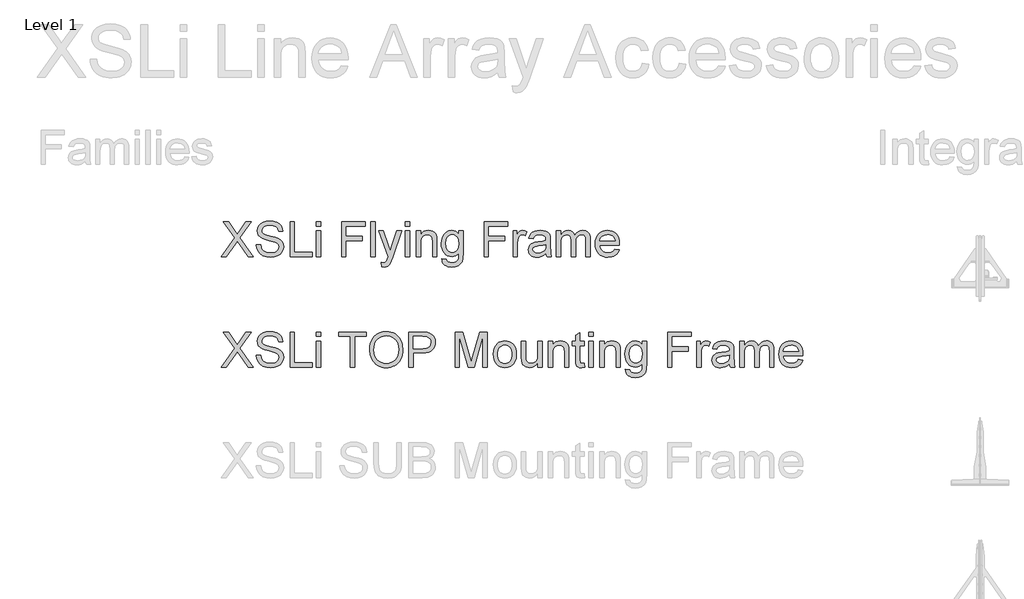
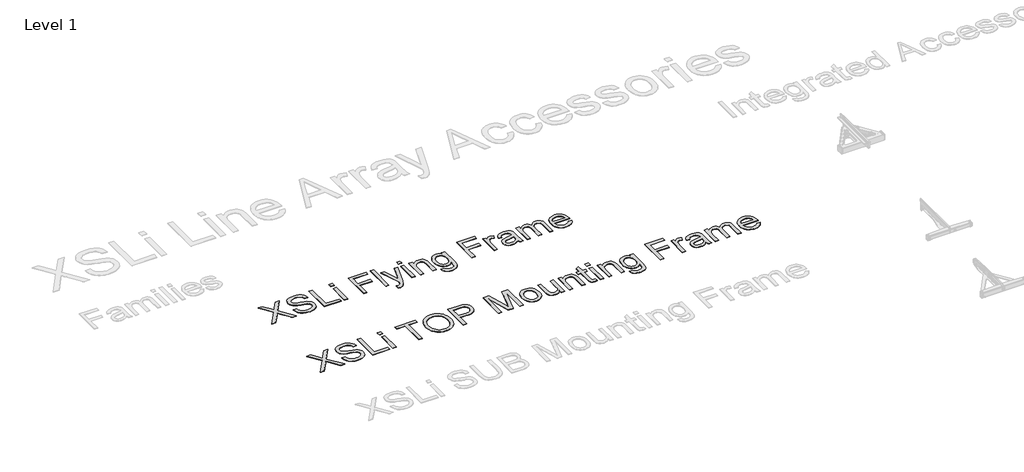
# One storey, part 30 of 52: 2 proxies.
"""IFC4 building model written with IfcOpenShell, lengths in millimetres."""

from ifc_helpers import new_model, si_unit, origin, origin_with_axes, place, context, project, spatial, polyline, outline, extrude, element, save

model = new_model("IFC4")

# Units and contexts
model_context = context("Model", 3, world=origin())
ifc_project = project(units=[si_unit("LENGTHUNIT", "METRE", prefix="MILLI")], contexts=[model_context])

# Site, building, storey
site = spatial("IfcSite", under=ifc_project)
building = spatial("IfcBuilding", under=site)
storey = spatial("IfcBuildingStorey", under=building, Name="Level 1", Elevation=0.0)

# Proxies
placement = place(None, origin())
element("IfcBuildingElementProxy", 1, Name="400mm Arial", ObjectType="400mm Arial", at=placement, inside=storey, context=model_context, shape_type="SweptSolid", body=[
    extrude(outline(polyline([(8004.9788586, -63590.7600783), (8159.7836021, -63371.7967147), (8030.0929361, -63188.9348377), (8090.2293796, -63188.9348377), (8163.3152693, -63291.9417963), (8187.9388375, -63332.0654593), (8216.7807859, -63291.0588795), (8289.0818607, -63188.9348377), (8350.2974247, -63188.9348377), (8220.5086568, -63372.4834278), (8375.4115022, -63590.7600783), (8315.1769569, -63590.7600783), (8211.8756926, -63445.2750119), (8190.3913841, -63415.1577392), (8166.9450383, -63448.2180679), (8066.1944226, -63590.7600783), (8004.9788586, -63590.7600783)])), origin_with_axes(), (0.0, 0.0, 1.0), 5.0),
    extrude(outline(polyline([(8406.8040992, -63452.6326518), (8457.0322542, -63452.6326518), (8462.7957388, -63480.5058443), (8473.219062, -63502.9098578), (8489.4794462, -63520.6908209), (8512.7541138, -63534.6948622), (8541.2036547, -63543.7815475), (8572.9886591, -63546.8104426), (8600.9722162, -63544.5173115), (8625.4731571, -63537.6379182), (8645.3265221, -63526.7486111), (8659.3673516, -63512.4257388), (8667.7182729, -63495.9814136), (8670.5019133, -63478.727748), (8668.4172487, -63461.9155408), (8662.1632547, -63447.384202), (8649.4590632, -63434.9865788), (8628.0238056, -63424.5755183), (8554.8888649, -63405.3966036), (8506.8802646, -63392.7046748), (8476.162118, -63380.6258826), (8451.158405, -63363.7278363), (8433.4387556, -63343.2490719), (8422.8805423, -63319.6310478), (8419.3611379, -63293.3152224), (8423.7144082, -63263.8969256), (8436.774219, -63236.4651914), (8458.1972139, -63213.2150494), (8487.6400362, -63196.3415285), (8522.9812332, -63186.0776208), (8562.0993521, -63182.6563183), (8604.4793579, -63186.2370364), (8641.561863, -63196.9791906), (8672.0224922, -63214.6620519), (8694.5368703, -63239.0648909), (8708.7861663, -63268.6671288), (8714.451549, -63301.9481866), (8664.2233939, -63301.9481866), (8655.0018186, -63271.9780667), (8646.6386345, -63260.1200037), (8635.773853, -63250.3466054), (8605.7301567, -63237.2500064), (8564.0613894, -63232.8844734), (8521.4116034, -63237.2009554), (8505.1082996, -63242.596558), (8492.152722, -63250.1504017), (8475.2301503, -63269.206689), (8469.589293, -63291.8436945), (8473.586944, -63311.1452365), (8485.5798971, -63326.6698567), (8513.9313362, -63340.5512706), (8567.5930565, -63354.7269902), (8622.9715595, -63368.1914712), (8656.4733465, -63379.9391696), (8685.1068285, -63398.1615911), (8705.0828208, -63420.6514437), (8716.8182565, -63447.1634728), (8720.7300684, -63477.4524238), (8716.2296453, -63508.415825), (8702.7283761, -63537.5398163), (8680.7780837, -63562.6048429), (8650.9305912, -63581.3913501), (8615.0375712, -63593.1267858), (8574.9506964, -63597.0385977), (8525.7403482, -63592.8202174), (8485.2365405, -63580.1650768), (8452.9732895, -63559.0241248), (8428.4846114, -63529.3483105), (8412.7637875, -63493.1977731), (8406.8040992, -63452.6326518)])), origin_with_axes(), (0.0, 0.0, 1.0), 5.0),
    extrude(outline(polyline([(8796.072301, -63590.7600783), (8796.072301, -63188.9348377), (8846.3004561, -63188.9348377), (8846.3004561, -63540.5319232), (9047.2130764, -63540.5319232), (9047.2130764, -63590.7600783), (8796.072301, -63590.7600783)])), origin_with_axes(), (0.0, 0.0, 1.0), 5.0),
    extrude(outline(polyline([(9097.4412314, -63590.7600783), (9097.4412314, -63295.6696672), (9147.6693865, -63295.6696672), (9147.6693865, -63590.7600783), (9097.4412314, -63590.7600783)])), origin_with_axes(), (0.0, 0.0, 1.0), 5.0),
    extrude(outline(polyline([(9097.4412314, -63239.1629927), (9097.4412314, -63188.9348377), (9147.6693865, -63188.9348377), (9147.6693865, -63239.1629927), (9097.4412314, -63239.1629927)])), origin_with_axes(), (0.0, 0.0, 1.0), 5.0),
    extrude(outline(polyline([(9486.7094333, -63590.7600783), (9486.7094333, -63239.1629927), (9354.8605262, -63239.1629927), (9354.8605262, -63188.9348377), (9668.7864954, -63188.9348377), (9668.7864954, -63239.1629927), (9536.9375883, -63239.1629927), (9536.9375883, -63590.7600783), (9486.7094333, -63590.7600783)])), origin_with_axes(), (0.0, 0.0, 1.0), 5.0),
    extrude(outline(polyline([(9706.4576117, -63395.1449587), (9709.8053379, -63348.0131438), (9719.8485163, -63306.2891941), (9736.5871471, -63269.9731098), (9760.0212302, -63239.0648909), (9788.7466827, -63214.3861404), (9821.3594215, -63196.7584614), (9857.8594468, -63186.1818541), (9898.2467585, -63182.6563183), (9925.2799538, -63184.3117873), (9950.9519857, -63189.2781942), (9975.2628542, -63197.5555391), (9998.2125594, -63209.1438219), (10019.1573076, -63223.6935548), (10037.4533055, -63240.8552499), (10053.100553, -63260.6289072), (10066.0990502, -63283.0145266), (10076.3139069, -63307.5032047), (10083.6102332, -63333.5860382), (10089.4472942, -63390.534171), (10087.9113868, -63420.1915912), (10083.3036648, -63448.2425933), (10075.6241282, -63474.6871774), (10064.8727769, -63499.5253435), (10051.3040626, -63522.1010352), (10035.1724371, -63541.7581965), (10016.4779004, -63558.4968273), (9995.2204525, -63572.3169276), (9972.2370248, -63583.1326582), (9948.364549, -63590.8581801), (9923.6030251, -63595.4934933), (9897.9524529, -63597.0385977), (9870.4471424, -63595.3310121), (9844.4378854, -63590.2082553), (9819.9246818, -63581.6703273), (9796.9075316, -63569.7172281), (9775.9873088, -63554.811876), (9757.7648873, -63537.417189), (9742.2402671, -63517.5331671), (9729.4134482, -63495.1598105), (9712.1965708, -63446.5380734), (9706.4576117, -63395.1449587)]), holes=[polyline([(9756.6857668, -63395.635468), (9759.1965614, -63428.93492), (9766.7289453, -63458.4942383), (9779.2829183, -63484.313423), (9796.8584807, -63506.392474), (9818.2232275, -63524.0753353), (9842.1447543, -63536.7059504), (9868.6230609, -63544.2843195), (9897.6581473, -63546.8104426), (9927.1898745, -63544.2597941), (9953.9808808, -63536.6078486), (9978.0311662, -63523.8546061), (9999.3407308, -63506.0000666), (10016.7875344, -63483.4550316), (10029.249537, -63456.6303028), (10036.7267386, -63425.5258801), (10039.2191391, -63390.1417636), (10034.9517079, -63345.6770931), (10022.1494145, -63307.2456873), (10001.1433526, -63275.8163022), (9972.264616, -63252.3576936), (9937.426191, -63237.7527784), (9898.5410641, -63232.8844734), (9870.5145875, -63235.2297211), (9844.5114618, -63242.2654642), (9820.5316871, -63253.9917028), (9798.5752633, -63270.4084369), (9780.2486086, -63292.3066126), (9767.1581409, -63320.4771764), (9759.3038603, -63354.9201282), (9756.6857668, -63395.635468)])]), origin_with_axes(), (0.0, 0.0, 1.0), 5.0),
    extrude(outline(polyline([(10158.5110074, -63590.7600783), (10158.5110074, -63188.9348377), (10307.429639, -63188.9348377), (10367.4679806, -63192.7608104), (10394.2375272, -63199.9099839), (10416.2736587, -63211.5473176), (10434.0178336, -63228.2001093), (10447.9115103, -63250.3956563), (10456.8878309, -63276.5765917), (10459.8799378, -63305.1855481), (10457.8596525, -63329.8520359), (10451.7987967, -63352.5442237), (10441.6973702, -63373.2621114), (10427.5553732, -63392.005699), (10408.1404009, -63407.5425819), (10382.2200487, -63418.6403555), (10349.7943165, -63425.2990196), (10310.8632043, -63427.5185743), (10208.7391625, -63427.5185743), (10208.7391625, -63590.7600783), (10158.5110074, -63590.7600783)]), holes=[polyline([(10208.7391625, -63377.2904192), (10313.8062603, -63377.2904192), (10358.3445072, -63372.6796315), (10374.9482479, -63366.9161469), (10387.7750668, -63358.8472685), (10397.34613, -63348.6875941), (10404.1826038, -63336.6517215), (10409.6517828, -63306.9513817), (10406.4266839, -63284.3879527), (10396.7513875, -63265.3561908), (10381.8276412, -63251.0333185), (10362.857193, -63242.596558), (10312.6290379, -63239.1629927), (10208.7391625, -63239.1629927), (10208.7391625, -63377.2904192)])]), origin_with_axes(), (0.0, 0.0, 1.0), 5.0),
    extrude(outline(polyline([(10685.9066357, -63590.7600783), (10685.9066357, -63188.9348377), (10772.0400735, -63188.9348377), (10854.4456404, -63472.154923), (10871.1229575, -63531.3103478), (10889.0755989, -63467.2498298), (10969.911536, -63188.9348377), (11056.3392794, -63188.9348377), (11056.3392794, -63590.7600783), (11006.1111243, -63590.7600783), (11006.1111243, -63239.1629927), (10905.1643048, -63590.7600783), (10837.1797121, -63590.7600783), (10736.1347907, -63239.1629927), (10736.1347907, -63590.7600783), (10685.9066357, -63590.7600783)])), origin_with_axes(), (0.0, 0.0, 1.0), 5.0),
    extrude(outline(polyline([(11125.4029926, -63443.2148727), (11128.119188, -63404.9980648), (11136.2677742, -63372.0664949), (11149.8487512, -63344.4201629), (11168.8621189, -63322.059069), (11188.0042454, -63307.7668535), (11209.1329347, -63297.5581281), (11232.2481867, -63291.4328929), (11257.3500015, -63289.3911478), (11285.0607128, -63291.877417), (11310.1165424, -63299.3362244), (11332.5174902, -63311.7675702), (11352.2635563, -63329.1714542), (11368.3798533, -63350.9592654), (11379.8914941, -63376.5423925), (11386.7984786, -63405.9208355), (11389.1008067, -63439.0945944), (11385.0295793, -63489.8377843), (11372.8158971, -63528.4653938), (11352.8153793, -63557.3931813), (11325.3836452, -63579.0369054), (11292.8015631, -63592.5381746), (11257.3500015, -63597.0385977), (11229.23462, -63594.5615256), (11203.9457985, -63587.1303092), (11181.4835371, -63574.7449487), (11161.8478356, -63557.405444), (11145.9032168, -63535.4061007), (11134.5142033, -63509.0412244), (11127.6807953, -63478.3108151), (11125.4029926, -63443.2148727)]), holes=[polyline([(11175.6311477, -63443.1167709), (11177.0842815, -63467.479756), (11181.4436832, -63488.5747227), (11188.7093526, -63506.4016711), (11198.8812897, -63520.960601), (11211.2543875, -63532.2699067), (11225.1235387, -63540.3479822), (11240.4887434, -63545.1948275), (11257.3500015, -63546.8104426), (11274.1254205, -63545.1856304), (11289.4293115, -63540.311194), (11303.2616745, -63532.1871333), (11315.6225096, -63520.8134483), (11325.7944467, -63506.1104312), (11333.0601161, -63487.9983743), (11337.4195178, -63466.4772776), (11338.8726516, -63441.547141), (11337.4103207, -63417.9567081), (11333.0233279, -63397.4135643), (11325.7116733, -63379.9177098), (11315.4753568, -63365.4691444), (11303.0685365, -63354.1598388), (11289.2453705, -63346.0817633), (11274.0058588, -63341.234918), (11257.3500015, -63339.6193029), (11240.4887434, -63341.2287866), (11225.1235387, -63346.0572378), (11211.2543875, -63354.1046565), (11198.8812897, -63365.3710426), (11188.7093526, -63379.8870529), (11181.4436832, -63397.6833445), (11177.0842815, -63418.7599171), (11175.6311477, -63443.1167709)])]), origin_with_axes(), (0.0, 0.0, 1.0), 5.0),
    extrude(outline(polyline([(11633.9630627, -63590.7600783), (11633.9630627, -63540.0414139), (11615.7896921, -63564.9776818), (11594.6242147, -63582.7893017), (11570.4666303, -63593.4762737), (11543.3169391, -63597.0385977), (11518.8527864, -63594.5370001), (11496.0808909, -63587.0322074), (11476.9755526, -63575.7504929), (11463.5110716, -63561.9181298), (11454.4489118, -63545.1181854), (11448.5505371, -63524.9337266), (11445.6074812, -63478.2372387), (11445.6074812, -63295.6696672), (11495.8356363, -63295.6696672), (11495.8356363, -63454.5946891), (11498.8767941, -63505.8038628), (11506.1976458, -63522.8858502), (11518.7424218, -63535.8720846), (11535.6772563, -63544.0758531), (11556.1682835, -63546.8104426), (11577.836533, -63544.0145394), (11598.1068309, -63535.6268299), (11614.8209362, -63522.4198663), (11625.8206079, -63505.1662007), (11631.927449, -63481.5359139), (11633.9630627, -63449.1990865), (11633.9630627, -63295.6696672), (11684.1912178, -63295.6696672), (11684.1912178, -63590.7600783), (11633.9630627, -63590.7600783)])), origin_with_axes(), (0.0, 0.0, 1.0), 5.0),
    extrude(outline(polyline([(11753.254931, -63590.7600783), (11753.254931, -63295.6696672), (11803.4830861, -63295.6696672), (11803.4830861, -63336.8724507), (11820.9329554, -63316.0993807), (11841.8899664, -63301.2614735), (11866.3541191, -63292.3587292), (11894.3254134, -63289.3911478), (11919.0838717, -63291.7823808), (11941.7576653, -63298.9560797), (11960.6667999, -63310.017065), (11974.1312809, -63324.0701572), (11983.2670171, -63341.0785681), (11989.1899173, -63361.0055095), (11991.8386676, -63409.5659329), (11991.8386676, -63590.7600783), (11941.6105125, -63590.7600783), (11941.6105125, -63416.3349616), (11940.16351, -63390.3624928), (11935.8225025, -63371.8948166), (11927.8149377, -63358.6633275), (11915.3682636, -63348.3994198), (11899.4144477, -63341.8143321), (11880.8854579, -63339.6193029), (11851.467161, -63344.5489216), (11826.3898717, -63359.3377778), (11816.368153, -63371.4104386), (11809.2097825, -63387.9099461), (11804.9147602, -63408.8363003), (11803.4830861, -63434.1895011), (11803.4830861, -63590.7600783), (11753.254931, -63590.7600783)])), origin_with_axes(), (0.0, 0.0, 1.0), 5.0),
    extrude(outline(polyline([(12167.6372104, -63548.8705818), (12173.9157298, -63592.2316062), (12136.3427153, -63597.0385977), (12112.2341819, -63594.953933), (12094.2570151, -63588.6999391), (12081.5528235, -63579.0614308), (12073.2632159, -63566.8232231), (12068.7014791, -63545.8048985), (12067.1809002, -63509.8260393), (12067.1809002, -63345.8978223), (12029.5097839, -63345.8978223), (12029.5097839, -63295.6696672), (12067.1809002, -63295.6696672), (12067.1809002, -63223.9572036), (12117.4090553, -63194.4285421), (12117.4090553, -63295.6696672), (12167.6372104, -63295.6696672), (12167.6372104, -63345.8978223), (12117.4090553, -63345.8978223), (12117.4090553, -63508.3545113), (12120.0578057, -63534.2534038), (12128.6417189, -63543.4259282), (12145.7604944, -63546.8104426), (12167.6372104, -63548.8705818)])), origin_with_axes(), (0.0, 0.0, 1.0), 5.0),
    extrude(outline(polyline([(12217.8653655, -63590.7600783), (12217.8653655, -63295.6696672), (12268.0935205, -63295.6696672), (12268.0935205, -63590.7600783), (12217.8653655, -63590.7600783)])), origin_with_axes(), (0.0, 0.0, 1.0), 5.0),
    extrude(outline(polyline([(12217.8653655, -63239.1629927), (12217.8653655, -63188.9348377), (12268.0935205, -63188.9348377), (12268.0935205, -63239.1629927), (12217.8653655, -63239.1629927)])), origin_with_axes(), (0.0, 0.0, 1.0), 5.0),
    extrude(outline(polyline([(12343.4357531, -63590.7600783), (12343.4357531, -63295.6696672), (12393.6639082, -63295.6696672), (12393.6639082, -63336.8724507), (12411.1137775, -63316.0993807), (12432.0707885, -63301.2614735), (12456.5349412, -63292.3587292), (12484.5062356, -63289.3911478), (12509.2646938, -63291.7823808), (12531.9384875, -63298.9560797), (12550.847622, -63310.017065), (12564.312103, -63324.0701572), (12573.4478393, -63341.0785681), (12579.3707394, -63361.0055095), (12582.0194897, -63409.5659329), (12582.0194897, -63590.7600783), (12531.7913347, -63590.7600783), (12531.7913347, -63416.3349616), (12530.3443322, -63390.3624928), (12526.0033246, -63371.8948166), (12517.9957599, -63358.6633275), (12505.5490857, -63348.3994198), (12489.5952698, -63341.8143321), (12471.06628, -63339.6193029), (12441.6479831, -63344.5489216), (12416.5706938, -63359.3377778), (12406.5489751, -63371.4104386), (12399.3906046, -63387.9099461), (12395.0955823, -63408.8363003), (12393.6639082, -63434.1895011), (12393.6639082, -63590.7600783), (12343.4357531, -63590.7600783)])), origin_with_axes(), (0.0, 0.0, 1.0), 5.0),
    extrude(outline(polyline([(12638.5261642, -63615.8741558), (12688.7543193, -63622.1526752), (12694.2970747, -63637.8489737), (12705.0392289, -63648.6401788), (12726.1556555, -63657.0278883), (12753.795856, -63659.8237915), (12783.2754666, -63656.6600063), (12805.2012335, -63647.1686509), (12820.4070226, -63631.9628617), (12829.7266998, -63611.6557756), (12833.1602651, -63553.088962), (12816.4461598, -63569.5700753), (12797.7945427, -63581.3422992), (12777.2054137, -63588.4056335), (12754.6787728, -63590.7600783), (12727.1397398, -63588.0193574), (12702.8932506, -63579.7971948), (12681.9393053, -63566.0935905), (12664.2779039, -63546.9085444), (12650.2646655, -63523.8913943), (12640.2552096, -63498.6914776), (12634.249536, -63471.3087944), (12632.2476448, -63441.7433448), (12635.8406256, -63401.1904862), (12646.6195681, -63363.8995146), (12664.2043275, -63332.2984512), (12688.214759, -63308.8153172), (12717.8292596, -63294.2471902), (12752.2262262, -63289.3911478), (12775.7154916, -63292.138), (12797.0342532, -63300.3785567), (12816.182511, -63314.1128179), (12833.1602651, -63333.3407835), (12833.1602651, -63295.6696672), (12883.3884202, -63295.6696672), (12883.3884202, -63550.4402116), (12879.9548549, -63609.2645426), (12869.654159, -63648.0025167), (12851.9099841, -63673.6929427), (12826.1459817, -63693.3746295), (12792.9262376, -63705.8826173), (12752.8148374, -63710.0519466), (12728.2065976, -63708.5834843), (12706.0815613, -63704.1780974), (12686.4397284, -63696.8357859), (12669.281099, -63686.5565498), (12655.4211448, -63673.3281264), (12645.6753376, -63657.1382529), (12640.0436774, -63637.9869294), (12638.5261642, -63615.8741558)]), holes=[polyline([(12682.4757999, -63438.3097795), (12687.8346143, -63484.380868), (12694.5331323, -63502.017744), (12703.9110575, -63516.0555078), (12715.3123337, -63526.7639395), (12728.0809046, -63534.4128193), (12742.2167702, -63539.0021472), (12757.7199306, -63540.5319232), (12773.0698069, -63539.0113443), (12787.1382275, -63534.4496075), (12799.9251925, -63526.846713), (12811.4307019, -63516.2026606), (12820.9373858, -63502.3028525), (12827.7278743, -63484.932691), (12833.1602651, -63439.7813074), (12827.5684588, -63396.236342), (12820.5787009, -63379.034793), (12810.7930398, -63364.8805332), (12799.0392101, -63353.828745), (12786.1449461, -63345.9346105), (12772.110248, -63341.1981298), (12756.9351157, -63339.6193029), (12742.0144351, -63341.1736043), (12728.2525828, -63345.8365086), (12704.2053631, -63364.4881258), (12694.6986792, -63378.4277877), (12687.9081907, -63395.3779506), (12682.4757999, -63438.3097795)])]), origin_with_axes(), (0.0, 0.0, 1.0), 5.0),
    extrude(outline(polyline([(13121.9721568, -63590.7600783), (13121.9721568, -63188.9348377), (13391.9484903, -63188.9348377), (13391.9484903, -63239.1629927), (13172.2003119, -63239.1629927), (13172.2003119, -63358.454861), (13360.5558934, -63358.454861), (13360.5558934, -63408.6830161), (13172.2003119, -63408.6830161), (13172.2003119, -63590.7600783), (13121.9721568, -63590.7600783)])), origin_with_axes(), (0.0, 0.0, 1.0), 5.0),
    extrude(outline(polyline([(13454.7336842, -63590.7600783), (13454.7336842, -63295.6696672), (13498.6833199, -63295.6696672), (13498.6833199, -63339.3249973), (13514.9191786, -63314.014716), (13529.8797131, -63299.1032325), (13544.8892985, -63291.819169), (13561.27231, -63289.3911478), (13586.2882856, -63293.2661715), (13611.6966688, -63304.8912425), (13594.9212498, -63349.9199988), (13577.262914, -63342.1944769), (13559.6045783, -63339.6193029), (13544.6072556, -63342.096375), (13531.2040882, -63349.5275913), (13520.3760948, -63361.3488661), (13513.1042941, -63376.9961136), (13506.997453, -63405.0532471), (13504.9618392, -63435.6610291), (13504.9618392, -63590.7600783), (13454.7336842, -63590.7600783)])), origin_with_axes(), (0.0, 0.0, 1.0), 5.0),
    extrude(outline(polyline([(13831.4448472, -63553.088962), (13807.4466784, -63573.6658282), (13782.7372711, -63587.1303092), (13756.7525395, -63594.5615256), (13728.9283979, -63597.0385977), (13706.5642383, -63595.5486756), (13686.9530623, -63591.0789093), (13670.0948698, -63583.6292989), (13655.989661, -63573.1998444), (13644.8520336, -63560.4527332), (13636.8965855, -63546.0501531), (13632.1233166, -63529.992104), (13630.5322269, -63512.278586), (13632.9357226, -63491.456465), (13640.1462097, -63472.5473305), (13651.2685087, -63456.3605227), (13665.4074401, -63443.7053821), (13682.0234435, -63434.1404502), (13700.5769588, -63427.2242687), (13744.0360852, -63419.670425), (13795.3924117, -63411.7241739), (13831.1505416, -63402.4044967), (13831.4448472, -63391.2208841), (13827.9867565, -63368.8046078), (13817.6124842, -63354.138379), (13794.4113931, -63343.2490719), (13762.0868284, -63339.6193029), (13732.1657595, -63342.0350613), (13711.2700621, -63349.2823366), (13697.0207662, -63362.685504), (13687.0389014, -63383.5689386), (13636.8107463, -63377.2904192), (13645.5295496, -63349.8218969), (13658.5403095, -63328.2394865), (13677.0570366, -63311.7338477), (13702.2937415, -63299.49564), (13733.1590409, -63291.9172709), (13768.5615515, -63289.3911478), (13802.5170597, -63291.6229653), (13829.433759, -63298.3184176), (13849.7285824, -63308.3861215), (13863.8184628, -63320.7346938), (13873.1626655, -63336.0017966), (13879.2204557, -63354.825092), (13881.6730023, -63398.7747277), (13881.6730023, -63461.265616), (13884.2236508, -63548.5272252), (13894.2300411, -63590.7600783), (13844.001886, -63590.7600783), (13835.957533, -63573.2979462), (13831.4448472, -63553.088962)]), holes=[polyline([(13831.4448472, -63452.6326518), (13797.6978055, -63460.9958358), (13750.4127064, -63468.0346447), (13707.1988347, -63476.1770995), (13695.9539084, -63481.7443804), (13687.6275126, -63489.4208513), (13682.4771647, -63498.6179012), (13680.760382, -63508.7469188), (13684.5005156, -63523.6829278), (13695.7209165, -63535.9211355), (13714.1763299, -63544.0881158), (13739.6215012, -63546.8104426), (13766.5995142, -63543.806073), (13790.4382675, -63534.7929641), (13809.764335, -63521.512424), (13823.2042905, -63505.705761), (13829.1639789, -63489.4208513), (13831.1505416, -63466.8574223), (13831.4448472, -63452.6326518)])]), origin_with_axes(), (0.0, 0.0, 1.0), 5.0),
    extrude(outline(polyline([(13950.7367155, -63590.7600783), (13950.7367155, -63295.6696672), (14000.9648706, -63295.6696672), (14000.9648706, -63344.2300906), (14016.0725579, -63321.9241789), (14035.4967272, -63304.4497842), (14058.5751911, -63293.1558069), (14084.6457618, -63289.3911478), (14112.5802679, -63293.2293833), (14134.9720187, -63304.7440898), (14151.6983868, -63323.1749777), (14162.6367448, -63347.7617577), (14180.9450054, -63322.2246159), (14201.82844, -63303.9838003), (14225.2870485, -63293.0393109), (14251.3208311, -63289.3911478), (14271.4286478, -63290.908661), (14289.0777865, -63295.4612007), (14304.2682472, -63303.0487669), (14317.0000299, -63313.6713595), (14327.0646682, -63327.4516059), (14334.2536955, -63344.5121334), (14338.5671119, -63364.8529421), (14340.0049174, -63388.4740319), (14340.0049174, -63590.7600783), (14289.7767623, -63590.7600783), (14289.7767623, -63410.0564422), (14288.6118026, -63385.0036784), (14285.1169237, -63368.1178948), (14278.5686242, -63356.5541374), (14268.2434028, -63347.4674521), (14254.9628628, -63341.5813402), (14239.5486072, -63339.6193029), (14212.3376023, -63344.6470235), (14190.154318, -63359.7301853), (14181.548945, -63371.300074), (14175.40225, -63385.8988579), (14170.484894, -63424.1831109), (14170.484894, -63590.7600783), (14120.2567389, -63590.7600783), (14120.2567389, -63404.4646359), (14117.3504712, -63376.0641459), (14108.6316679, -63355.8061107), (14093.2909887, -63343.6660048), (14070.5190932, -63339.6193029), (14051.1685002, -63342.3171042), (14033.3384862, -63350.4105081), (14018.6232064, -63363.7033108), (14008.6168161, -63381.9993087), (14002.877857, -63407.3831664), (14000.9648706, -63441.9395485), (14000.9648706, -63590.7600783), (13950.7367155, -63590.7600783)])), origin_with_axes(), (0.0, 0.0, 1.0), 5.0),
    extrude(outline(polyline([(14621.9496785, -63502.8608069), (14671.1968149, -63509.1393263), (14663.6460369, -63528.8639326), (14653.45264, -63546.2463569), (14640.616624, -63561.2865991), (14625.1379891, -63573.9846593), (14607.1761507, -63584.0707573), (14586.8905243, -63591.2751131), (14539.3479078, -63597.0385977), (14508.1821715, -63594.5523285), (14480.4132122, -63587.093521), (14456.04103, -63574.6621753), (14435.0656249, -63557.2582912), (14418.1982354, -63535.3662468), (14406.1501001, -63509.4704201), (14398.9212189, -63479.5708109), (14396.5115918, -63445.6674194), (14398.9457444, -63410.6143966), (14406.248202, -63379.7184404), (14418.4189646, -63352.9795507), (14435.4580324, -63330.3977275), (14456.3782552, -63312.4573489), (14480.192483, -63299.6427928), (14506.9007158, -63291.9540591), (14536.5029537, -63289.3911478), (14565.1517641, -63291.9479277), (14591.0598536, -63299.6182673), (14614.2272223, -63312.4021666), (14634.65387, -63330.2996257), (14651.3281215, -63352.8323979), (14663.2383011, -63379.5222366), (14670.3844088, -63410.3691419), (14672.7664447, -63445.3731138), (14672.4721391, -63458.9111712), (14446.7397469, -63458.9111712), (14449.6490803, -63478.9546086), (14455.4340247, -63496.5087111), (14464.09458, -63511.5734788), (14475.6307463, -63524.1489117), (14489.4048613, -63534.0633314), (14504.779263, -63541.1450599), (14540.3289265, -63546.8104426), (14567.0616848, -63544.1862177), (14589.5760629, -63536.313543), (14607.8720608, -63522.7019092), (14621.9496785, -63502.8608069)]), holes=[polyline([(14446.7397469, -63408.6830161), (14622.5382897, -63408.6830161), (14615.7447355, -63382.1464615), (14602.4274073, -63363.1637506), (14588.7299343, -63352.8630547), (14573.1440004, -63345.5054148), (14555.6696057, -63341.0908309), (14536.30675, -63339.6193029), (14502.4493437, -63344.3159297), (14474.4535239, -63358.4058101), (14454.9925663, -63380.3683652), (14446.7397469, -63408.6830161)])]), origin_with_axes(), (0.0, 0.0, 1.0), 5.0),
])
element("IfcBuildingElementProxy", 2, Name="400mm Arial", ObjectType="400mm Arial", at=placement, inside=storey, context=model_context, shape_type="SweptSolid", body=[
    extrude(outline(polyline([(8004.9788586, -62324.834252), (8159.7836021, -62105.8708884), (8030.0929361, -61923.0090114), (8090.2293796, -61923.0090114), (8163.3152693, -62026.01597), (8187.9388375, -62066.139633), (8216.7807859, -62025.1330532), (8289.0818607, -61923.0090114), (8350.2974247, -61923.0090114), (8220.5086568, -62106.5576015), (8375.4115022, -62324.834252), (8315.1769569, -62324.834252), (8211.8756926, -62179.3491856), (8190.3913841, -62149.2319129), (8166.9450383, -62182.2922416), (8066.1944226, -62324.834252), (8004.9788586, -62324.834252)])), origin_with_axes(), (0.0, 0.0, 1.0), 5.0),
    extrude(outline(polyline([(8406.8040992, -62186.7068255), (8457.0322542, -62186.7068255), (8462.7957388, -62214.580018), (8473.219062, -62236.9840315), (8489.4794462, -62254.7649946), (8512.7541138, -62268.7690359), (8541.2036547, -62277.8557212), (8572.9886591, -62280.8846163), (8600.9722162, -62278.5914852), (8625.4731571, -62271.7120919), (8645.3265221, -62260.8227848), (8659.3673516, -62246.4999125), (8667.7182729, -62230.0555873), (8670.5019133, -62212.8019217), (8668.4172487, -62195.9897145), (8662.1632547, -62181.4583757), (8649.4590632, -62169.0607525), (8628.0238056, -62158.649692), (8554.8888649, -62139.4707773), (8506.8802646, -62126.7788485), (8476.162118, -62114.7000563), (8451.158405, -62097.80201), (8433.4387556, -62077.3232456), (8422.8805423, -62053.7052215), (8419.3611379, -62027.3893961), (8423.7144082, -61997.9710993), (8436.774219, -61970.5393652), (8458.1972139, -61947.2892231), (8487.6400362, -61930.4157022), (8522.9812332, -61920.1517946), (8562.0993521, -61916.730492), (8604.4793579, -61920.3112101), (8641.561863, -61931.0533643), (8672.0224922, -61948.7362256), (8694.5368703, -61973.1390646), (8708.7861663, -62002.7413025), (8714.451549, -62036.0223603), (8664.2233939, -62036.0223603), (8655.0018186, -62006.0522404), (8646.6386345, -61994.1941774), (8635.773853, -61984.4207791), (8605.7301567, -61971.3241801), (8564.0613894, -61966.9586471), (8521.4116034, -61971.2751291), (8505.1082996, -61976.6707317), (8492.152722, -61984.2245754), (8475.2301503, -62003.2808627), (8469.589293, -62025.9178682), (8473.586944, -62045.2194102), (8485.5798971, -62060.7440304), (8513.9313362, -62074.6254443), (8567.5930565, -62088.8011639), (8622.9715595, -62102.2656449), (8656.4733465, -62114.0133433), (8685.1068285, -62132.2357648), (8705.0828208, -62154.7256174), (8716.8182565, -62181.2376465), (8720.7300684, -62211.5265975), (8716.2296453, -62242.4899987), (8702.7283761, -62271.61399), (8680.7780837, -62296.6790166), (8650.9305912, -62315.4655238), (8615.0375712, -62327.2009595), (8574.9506964, -62331.1127714), (8525.7403482, -62326.8943912), (8485.2365405, -62314.2392505), (8452.9732895, -62293.0982985), (8428.4846114, -62263.4224843), (8412.7637875, -62227.2719469), (8406.8040992, -62186.7068255)])), origin_with_axes(), (0.0, 0.0, 1.0), 5.0),
    extrude(outline(polyline([(8796.072301, -62324.834252), (8796.072301, -61923.0090114), (8846.3004561, -61923.0090114), (8846.3004561, -62274.6060969), (9047.2130764, -62274.6060969), (9047.2130764, -62324.834252), (8796.072301, -62324.834252)])), origin_with_axes(), (0.0, 0.0, 1.0), 5.0),
    extrude(outline(polyline([(9097.4412314, -62324.834252), (9097.4412314, -62029.7438409), (9147.6693865, -62029.7438409), (9147.6693865, -62324.834252), (9097.4412314, -62324.834252)])), origin_with_axes(), (0.0, 0.0, 1.0), 5.0),
    extrude(outline(polyline([(9097.4412314, -61973.2371665), (9097.4412314, -61923.0090114), (9147.6693865, -61923.0090114), (9147.6693865, -61973.2371665), (9097.4412314, -61973.2371665)])), origin_with_axes(), (0.0, 0.0, 1.0), 5.0),
    extrude(outline(polyline([(9386.2531231, -62324.834252), (9386.2531231, -61923.0090114), (9656.2294566, -61923.0090114), (9656.2294566, -61973.2371665), (9436.4812782, -61973.2371665), (9436.4812782, -62092.5290348), (9624.8368597, -62092.5290348), (9624.8368597, -62142.7571898), (9436.4812782, -62142.7571898), (9436.4812782, -62324.834252), (9386.2531231, -62324.834252)])), origin_with_axes(), (0.0, 0.0, 1.0), 5.0),
    extrude(outline(polyline([(9719.0146505, -62324.834252), (9719.0146505, -61923.0090114), (9769.2428056, -61923.0090114), (9769.2428056, -62324.834252), (9719.0146505, -62324.834252)])), origin_with_axes(), (0.0, 0.0, 1.0), 5.0),
    extrude(outline(polyline([(9844.5850382, -62437.8476009), (9838.3065188, -62389.4833813), (9863.8130038, -62393.8979652), (9877.2284339, -62392.5122764), (9887.6517571, -62388.3552098), (9902.268935, -62372.904166), (9916.0031962, -62335.9197628), (9919.9272708, -62323.7551315), (9813.1924412, -62029.7438409), (9866.0693467, -62029.7438409), (9922.7722249, -62193.672058), (9942.4906998, -62259.204104), (9962.2091748, -62201.2259016), (10020.3835809, -62029.7438409), (10072.8680789, -62029.7438409), (9970.1554259, -62331.8975863), (9943.4717185, -62397.4296324), (9929.8110337, -62418.3498552), (9914.3354645, -62432.8444058), (9896.3828231, -62441.3056917), (9875.290922, -62444.1261203), (9844.5850382, -62437.8476009)])), origin_with_axes(), (0.0, 0.0, 1.0), 5.0),
    extrude(outline(polyline([(10114.5613717, -61973.2371665), (10114.5613717, -61923.0090114), (10164.7895268, -61923.0090114), (10164.7895268, -61973.2371665), (10114.5613717, -61973.2371665)])), origin_with_axes(), (0.0, 0.0, 1.0), 5.0),
    extrude(outline(polyline([(10114.5613717, -62324.834252), (10114.5613717, -62029.7438409), (10164.7895268, -62029.7438409), (10164.7895268, -62324.834252), (10114.5613717, -62324.834252)])), origin_with_axes(), (0.0, 0.0, 1.0), 5.0),
    extrude(outline(polyline([(10240.1317594, -62324.834252), (10240.1317594, -62029.7438409), (10290.3599145, -62029.7438409), (10290.3599145, -62070.9466244), (10307.8097838, -62050.1735544), (10328.7667948, -62035.3356472), (10353.2309474, -62026.432903), (10381.2022418, -62023.4653215), (10405.9607001, -62025.8565545), (10428.6344937, -62033.0302534), (10447.5436283, -62044.0912387), (10461.0081093, -62058.1443309), (10470.1438455, -62075.1527419), (10476.0667456, -62095.0796833), (10478.715496, -62143.6401066), (10478.715496, -62324.834252), (10428.4873409, -62324.834252), (10428.4873409, -62150.4091353), (10427.0403384, -62124.4366665), (10422.6993309, -62105.9689903), (10414.6917661, -62092.7375012), (10402.2450919, -62082.4735936), (10386.2912761, -62075.8885058), (10367.7622862, -62073.6934766), (10338.3439894, -62078.6230953), (10313.2667, -62093.4119515), (10303.2449813, -62105.4846124), (10296.0866109, -62121.9841198), (10291.7915886, -62142.910474), (10290.3599145, -62168.2636748), (10290.3599145, -62324.834252), (10240.1317594, -62324.834252)])), origin_with_axes(), (0.0, 0.0, 1.0), 5.0),
    extrude(outline(polyline([(10535.2221704, -62349.9483295), (10585.4503255, -62356.2268489), (10590.9930809, -62371.9231474), (10601.7352352, -62382.7143526), (10622.8516617, -62391.102062), (10650.4918623, -62393.8979652), (10679.9714728, -62390.73418), (10701.8972397, -62381.2428246), (10717.1030289, -62366.0370354), (10726.4227061, -62345.7299493), (10729.8562714, -62287.1631357), (10713.1421661, -62303.6442491), (10694.4905489, -62315.4164729), (10673.9014199, -62322.4798072), (10651.3747791, -62324.834252), (10623.835746, -62322.0935311), (10599.5892569, -62313.8713685), (10578.6353116, -62300.1677642), (10560.9739101, -62280.9827182), (10546.9606718, -62257.965568), (10536.9512158, -62232.7656513), (10530.9455423, -62205.3829681), (10528.9436511, -62175.8175185), (10532.5366319, -62135.2646599), (10543.3155743, -62097.9736883), (10560.9003337, -62066.3726249), (10584.9107653, -62042.8894909), (10614.5252659, -62028.3213639), (10648.9222324, -62023.4653215), (10672.4114978, -62026.2121738), (10693.7302594, -62034.4527305), (10712.8785173, -62048.1869916), (10729.8562714, -62067.4149572), (10729.8562714, -62029.7438409), (10780.0844264, -62029.7438409), (10780.0844264, -62284.5143853), (10776.6508612, -62343.3387163), (10766.3501653, -62382.0766904), (10748.6059904, -62407.7671164), (10722.841988, -62427.4488032), (10689.6222438, -62439.956791), (10649.5108436, -62444.1261203), (10624.9026038, -62442.657658), (10602.7775675, -62438.2522711), (10583.1357346, -62430.9099596), (10565.9771052, -62420.6307235), (10552.1171511, -62407.4023001), (10542.3713439, -62391.2124266), (10536.7396837, -62372.0611031), (10535.2221704, -62349.9483295)]), holes=[polyline([(10579.1718061, -62172.3839532), (10584.5306205, -62218.4550417), (10591.2291385, -62236.0919177), (10600.6070637, -62250.1296815), (10612.0083399, -62260.8381132), (10624.7769108, -62268.4869931), (10638.9127765, -62273.0763209), (10654.4159369, -62274.6060969), (10669.7658131, -62273.085518), (10683.8342338, -62268.5237813), (10696.6211988, -62260.9208867), (10708.1267082, -62250.2768343), (10717.6333921, -62236.3770262), (10724.4238806, -62219.0068647), (10729.8562714, -62173.8554812), (10724.264465, -62130.3105157), (10717.2747071, -62113.1089667), (10707.4890461, -62098.9547069), (10695.7352163, -62087.9029187), (10682.8409524, -62080.0087842), (10668.8062543, -62075.2723035), (10653.631122, -62073.6934766), (10638.7104414, -62075.247778), (10624.9485891, -62079.9106823), (10600.9013693, -62098.5622995), (10591.3946854, -62112.5019614), (10584.6041969, -62129.4521243), (10579.1718061, -62172.3839532)])]), origin_with_axes(), (0.0, 0.0, 1.0), 5.0),
    extrude(outline(polyline([(11018.668163, -62324.834252), (11018.668163, -61923.0090114), (11288.6444966, -61923.0090114), (11288.6444966, -61973.2371665), (11068.8963181, -61973.2371665), (11068.8963181, -62092.5290348), (11257.2518997, -62092.5290348), (11257.2518997, -62142.7571898), (11068.8963181, -62142.7571898), (11068.8963181, -62324.834252), (11018.668163, -62324.834252)])), origin_with_axes(), (0.0, 0.0, 1.0), 5.0),
    extrude(outline(polyline([(11351.4296904, -62324.834252), (11351.4296904, -62029.7438409), (11395.3793261, -62029.7438409), (11395.3793261, -62073.399171), (11411.6151848, -62048.0888897), (11426.5757193, -62033.1774062), (11441.5853047, -62025.8933427), (11457.9683162, -62023.4653215), (11482.9842919, -62027.3403452), (11508.392675, -62038.9654163), (11491.617256, -62083.9941725), (11473.9589203, -62076.2686506), (11456.3005845, -62073.6934766), (11441.3032618, -62076.1705487), (11427.9000945, -62083.601765), (11417.0721011, -62095.4230398), (11409.8003003, -62111.0702873), (11403.6934592, -62139.1274208), (11401.6578455, -62169.7352028), (11401.6578455, -62324.834252), (11351.4296904, -62324.834252)])), origin_with_axes(), (0.0, 0.0, 1.0), 5.0),
    extrude(outline(polyline([(11728.1408535, -62287.1631357), (11704.1426847, -62307.7400019), (11679.4332773, -62321.204483), (11653.4485457, -62328.6356993), (11625.6244042, -62331.1127714), (11603.2602445, -62329.6228493), (11583.6490685, -62325.153083), (11566.7908761, -62317.7034726), (11552.6856672, -62307.2740181), (11541.5480398, -62294.5269069), (11533.5925917, -62280.1243268), (11528.8193228, -62264.0662777), (11527.2282332, -62246.3527597), (11529.6317289, -62225.5306387), (11536.842216, -62206.6215042), (11547.964515, -62190.4346964), (11562.1034463, -62177.7795558), (11578.7194498, -62168.2146239), (11597.2729651, -62161.2984424), (11640.7320914, -62153.7445988), (11692.0884179, -62145.7983477), (11727.8465479, -62136.4786704), (11728.1408535, -62125.2950578), (11724.6827627, -62102.8787816), (11714.3084905, -62088.2125527), (11691.1073993, -62077.3232456), (11658.7828347, -62073.6934766), (11628.8617657, -62076.109235), (11607.9660684, -62083.3565103), (11593.7167724, -62096.7596777), (11583.7349076, -62117.6431123), (11533.5067526, -62111.3645929), (11542.2255558, -62083.8960706), (11555.2363157, -62062.3136602), (11573.7530428, -62045.8080214), (11598.9897477, -62033.5698137), (11629.8550471, -62025.9914446), (11665.2575578, -62023.4653215), (11699.2130659, -62025.697139), (11726.1297652, -62032.3925913), (11746.4245886, -62042.4602952), (11760.5144691, -62054.8088675), (11769.8586717, -62070.0759703), (11775.9164619, -62088.8992657), (11778.3690086, -62132.8489014), (11778.3690086, -62195.3397897), (11780.9196571, -62282.6013989), (11790.9260473, -62324.834252), (11740.6978922, -62324.834252), (11732.6535393, -62307.3721199), (11728.1408535, -62287.1631357)]), holes=[polyline([(11728.1408535, -62186.7068255), (11694.3938118, -62195.0700095), (11647.1087127, -62202.1088184), (11603.894841, -62210.2512732), (11592.6499147, -62215.8185541), (11584.3235188, -62223.495025), (11579.1731709, -62232.6920749), (11577.4563883, -62242.8210925), (11581.1965219, -62257.7571015), (11592.4169227, -62269.9953092), (11610.8723361, -62278.1622895), (11636.3175075, -62280.8846163), (11663.2955205, -62277.8802467), (11687.1342737, -62268.8671378), (11706.4603412, -62255.5865978), (11719.9002968, -62239.7799347), (11725.8599851, -62223.495025), (11727.8465479, -62200.931596), (11728.1408535, -62186.7068255)])]), origin_with_axes(), (0.0, 0.0, 1.0), 5.0),
    extrude(outline(polyline([(11847.4327218, -62324.834252), (11847.4327218, -62029.7438409), (11897.6608769, -62029.7438409), (11897.6608769, -62078.3042643), (11912.7685641, -62055.9983526), (11932.1927335, -62038.5239579), (11955.2711973, -62027.2299806), (11981.341768, -62023.4653215), (12009.2762742, -62027.303557), (12031.668025, -62038.8182635), (12048.394393, -62057.2491514), (12059.332751, -62081.8359314), (12077.6410116, -62056.2987896), (12098.5244462, -62038.057974), (12121.9830548, -62027.1134846), (12148.0168373, -62023.4653215), (12168.124654, -62024.9828348), (12185.7737927, -62029.5353745), (12200.9642535, -62037.1229406), (12213.6960362, -62047.7455332), (12223.7606744, -62061.5257796), (12230.9497018, -62078.5863071), (12235.2631181, -62098.9271158), (12236.7009236, -62122.5482056), (12236.7009236, -62324.834252), (12186.4727685, -62324.834252), (12186.4727685, -62144.1306159), (12185.3078089, -62119.0778521), (12181.8129299, -62102.1920685), (12175.2646304, -62090.6283111), (12164.9394091, -62081.5416258), (12151.6588691, -62075.6555139), (12136.2446135, -62073.6934766), (12109.0336085, -62078.7211972), (12086.8503242, -62093.804359), (12078.2449512, -62105.3742478), (12072.0982562, -62119.9730316), (12067.1809002, -62158.2572846), (12067.1809002, -62324.834252), (12016.9527452, -62324.834252), (12016.9527452, -62138.5388096), (12014.0464774, -62110.1383196), (12005.3276741, -62089.8802844), (11989.9869949, -62077.7401786), (11967.2150994, -62073.6934766), (11947.8645065, -62076.3912779), (11930.0344924, -62084.4846818), (11915.3192126, -62097.7774846), (11905.3128224, -62116.0734824), (11899.5738632, -62141.4573401), (11897.6608769, -62176.0137222), (11897.6608769, -62324.834252), (11847.4327218, -62324.834252)])), origin_with_axes(), (0.0, 0.0, 1.0), 5.0),
    extrude(outline(polyline([(12518.6456847, -62236.9349806), (12567.8928211, -62243.2135), (12560.3420432, -62262.9381063), (12550.1486462, -62280.3205306), (12537.3126303, -62295.3607728), (12521.8339953, -62308.058833), (12503.8721569, -62318.144931), (12483.5865306, -62325.3492868), (12436.0439141, -62331.1127714), (12404.8781777, -62328.6265022), (12377.1092184, -62321.1676948), (12352.7370363, -62308.736349), (12331.7616312, -62291.332465), (12314.8942417, -62269.4404206), (12302.8461063, -62243.5445938), (12295.6172251, -62213.6449846), (12293.2075981, -62179.7415931), (12295.6417506, -62144.6885703), (12302.9442082, -62113.7926141), (12315.1149709, -62087.0537244), (12332.1540386, -62064.4719013), (12353.0742614, -62046.5315226), (12376.8884892, -62033.7169665), (12403.5967221, -62026.0282328), (12433.19896, -62023.4653215), (12461.8477703, -62026.0221014), (12487.7558599, -62033.692441), (12510.9232285, -62046.4763403), (12531.3498763, -62064.3737994), (12548.0241277, -62086.9065716), (12559.9343073, -62113.5964103), (12567.0804151, -62144.4433156), (12569.462451, -62179.4472875), (12569.1681454, -62192.9853449), (12343.4357531, -62192.9853449), (12346.3450866, -62213.0287823), (12352.130031, -62230.5828848), (12360.7905863, -62245.6476525), (12372.3267525, -62258.2230854), (12386.1008675, -62268.1375052), (12401.4752692, -62275.2192336), (12437.0249327, -62280.8846163), (12463.757691, -62278.2603914), (12486.2720691, -62270.3877167), (12504.568067, -62256.7760829), (12518.6456847, -62236.9349806)]), holes=[polyline([(12343.4357531, -62142.7571898), (12519.2342959, -62142.7571898), (12512.4407417, -62116.2206352), (12499.1234135, -62097.2379243), (12485.4259405, -62086.9372284), (12469.8400067, -62079.5795885), (12452.3656119, -62075.1650046), (12433.0027562, -62073.6934766), (12399.1453499, -62078.3901034), (12371.1495301, -62092.4799838), (12351.6885726, -62114.4425389), (12343.4357531, -62142.7571898)])]), origin_with_axes(), (0.0, 0.0, 1.0), 5.0),
])

save(model, "model.ifc")
